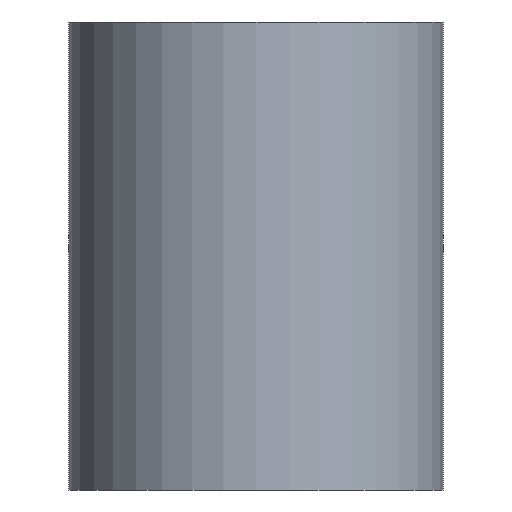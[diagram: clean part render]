
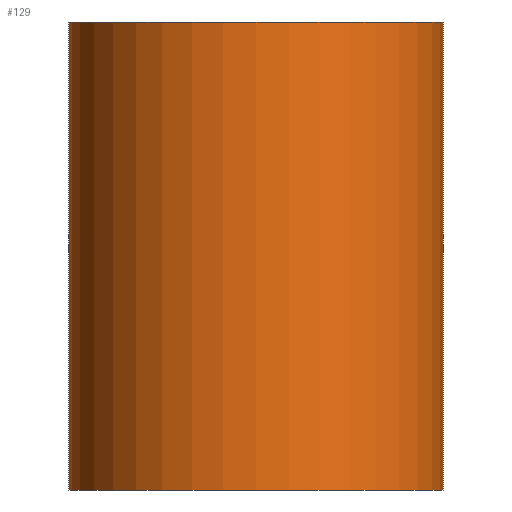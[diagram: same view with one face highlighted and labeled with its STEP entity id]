
A CAD part, front view. The second image highlights one B-rep face of the part: STEP entity #129.
In plain terms, the highlighted cylindrical face has radius 20 mm (diameter 40 mm), a partial arc.
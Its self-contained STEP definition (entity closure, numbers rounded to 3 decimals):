
#102=CYLINDRICAL_SURFACE('',#250,20.);
#108=FACE_OUTER_BOUND('',#150,.T.);
#113=LINE('',#337,#119);
#114=LINE('',#338,#120);
#119=VECTOR('',#295,1.);
#120=VECTOR('',#296,1.);
#129=ADVANCED_FACE('',(#108),#102,.T.);
#150=EDGE_LOOP('',(#183,#184,#185,#186));
#183=ORIENTED_EDGE('',*,*,#215,.F.);
#184=ORIENTED_EDGE('',*,*,#214,.T.);
#185=ORIENTED_EDGE('',*,*,#216,.T.);
#186=ORIENTED_EDGE('',*,*,#199,.F.);
#187=VERTEX_POINT('',#303);
#188=VERTEX_POINT('',#304);
#197=VERTEX_POINT('',#333);
#198=VERTEX_POINT('',#334);
#199=EDGE_CURVE('',#187,#188,#217,.T.);
#214=EDGE_CURVE('',#198,#197,#228,.T.);
#215=EDGE_CURVE('',#198,#187,#113,.T.);
#216=EDGE_CURVE('',#197,#188,#114,.T.);
#217=CIRCLE('',#230,20.);
#228=CIRCLE('',#247,20.);
#230=AXIS2_PLACEMENT_3D('',#302,#253,#254);
#247=AXIS2_PLACEMENT_3D('',#335,#291,#292);
#250=AXIS2_PLACEMENT_3D('',#340,#299,#300);
#253=DIRECTION('',(0.,0.,1.));
#254=DIRECTION('',(0.,1.,0.));
#291=DIRECTION('',(0.,0.,1.));
#292=DIRECTION('',(0.,1.,0.));
#295=DIRECTION('',(0.,0.,1.));
#296=DIRECTION('',(0.,0.,1.));
#299=DIRECTION('',(0.,0.,1.));
#300=DIRECTION('',(0.,-1.,0.));
#302=CARTESIAN_POINT('',(0.,0.,50.));
#303=CARTESIAN_POINT('',(-20.,0.,50.));
#304=CARTESIAN_POINT('',(20.,0.,50.));
#333=CARTESIAN_POINT('',(20.,0.,0.));
#334=CARTESIAN_POINT('',(-20.,0.,0.));
#335=CARTESIAN_POINT('',(0.,0.,0.));
#337=CARTESIAN_POINT('',(-20.,0.,0.));
#338=CARTESIAN_POINT('',(20.,0.,0.));
#340=CARTESIAN_POINT('',(0.,0.,0.));
